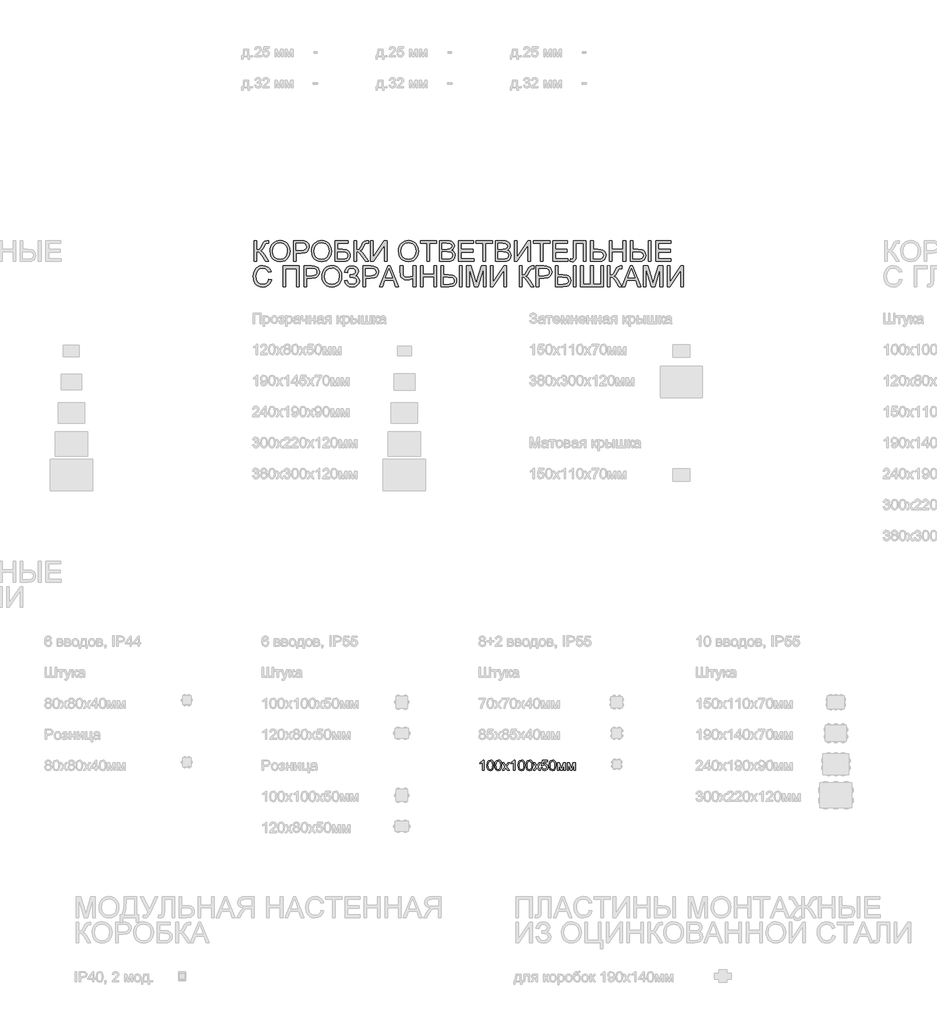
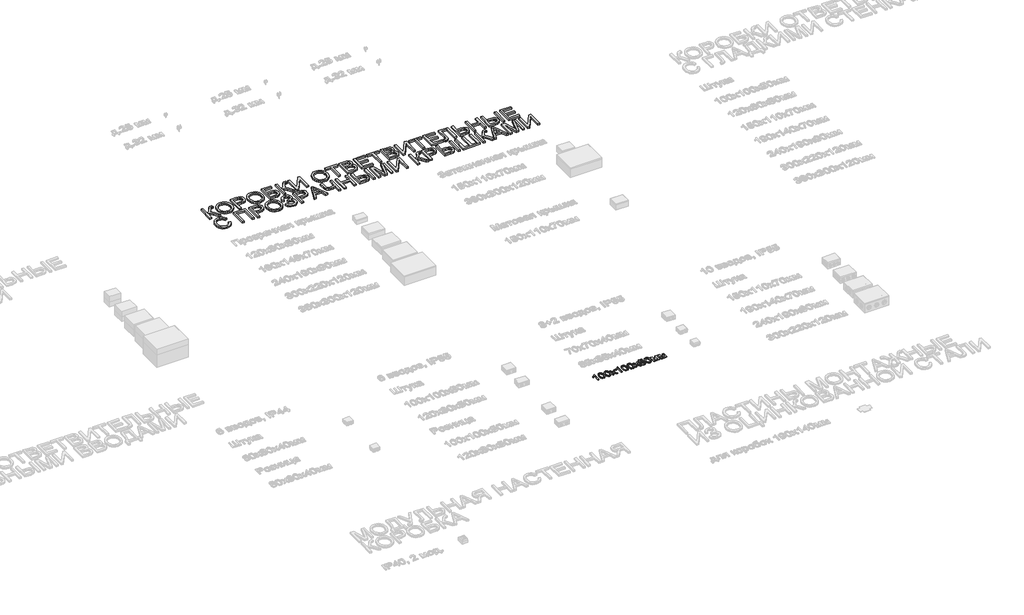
# One storey, part 23 of 98: 2 proxies.
"""IFC4 building model written with IfcOpenShell, lengths in millimetres."""

from ifc_helpers import new_model, si_unit, origin, origin_with_axes, place, context, project, spatial, polyline, outline, extrude, element, save

model = new_model("IFC4")

# Units and contexts
model_context = context("Model", 3, world=origin())
ifc_project = project(units=[si_unit("LENGTHUNIT", "METRE", prefix="MILLI")], contexts=[model_context])

# Site, building, storey
site = spatial("IfcSite", under=ifc_project)
building = spatial("IfcBuilding", under=site)
storey = spatial("IfcBuildingStorey", under=building, Name="Этаж 01", Elevation=0.0)

# Proxies
placement = place(None, origin())
element("IfcBuildingElementProxy", 1, Name="100", ObjectType="100", at=placement, inside=storey, context=model_context, shape_type="SweptSolid", body=[
    extrude(outline(polyline([(8097.5391141, -46359.5121665), (8084.9820753, -46359.5121665), (8084.9820753, -46281.2268779), (8073.0872241, -46289.7004265), (8059.8679978, -46296.0402596), (8059.8679978, -46284.1699338), (8078.2743603, -46272.4222355), (8089.4457102, -46259.0558563), (8097.5391141, -46259.0558563), (8097.5391141, -46359.5121665)])), origin_with_axes(), (0.0, 0.0, 1.0), 10.0),
    extrude(outline(polyline([(8127.3620812, -46310.0933518), (8131.0531639, -46281.1900897), (8142.0160473, -46264.5250353), (8160.3243079, -46259.0558563), (8174.9905368, -46262.2932179), (8185.1195544, -46271.6251578), (8191.0056663, -46286.4875904), (8193.2865347, -46310.0933518), (8189.6322402, -46338.8739865), (8178.706145, -46355.5758291), (8170.4747853, -46359.7053045), (8160.3243079, -46361.0817963), (8147.2767598, -46358.6905633), (8137.3684714, -46351.5168644), (8129.8636787, -46334.5268476), (8127.3620812, -46310.0933518)]), holes=[polyline([(8139.9191199, -46310.0688263), (8141.3906479, -46329.8210238), (8145.8052319, -46341.2529568), (8152.3780568, -46346.7068073), (8160.3243079, -46348.5247575), (8168.270559, -46346.700676), (8174.843384, -46341.2284313), (8179.257968, -46329.7903669), (8180.7294959, -46310.0688263), (8179.3070189, -46290.7611529), (8175.0395877, -46279.2403151), (8168.4790255, -46273.5197501), (8160.1771551, -46271.6128951), (8152.3167432, -46273.2928895), (8146.0014356, -46278.3328729), (8141.4396988, -46290.5710806), (8139.9191199, -46310.0688263)])]), origin_with_axes(), (0.0, 0.0, 1.0), 10.0),
    extrude(outline(polyline([(8204.2739436, -46310.0933518), (8207.9650263, -46281.1900897), (8218.9279098, -46264.5250353), (8237.2361704, -46259.0558563), (8251.9023993, -46262.2932179), (8262.0314169, -46271.6251578), (8267.9175288, -46286.4875904), (8270.1983972, -46310.0933518), (8266.5441027, -46338.8739865), (8255.6180074, -46355.5758291), (8247.3866478, -46359.7053045), (8237.2361704, -46361.0817963), (8224.1886223, -46358.6905633), (8214.2803339, -46351.5168644), (8206.7755412, -46334.5268476), (8204.2739436, -46310.0933518)]), holes=[polyline([(8216.8309824, -46310.0688263), (8218.3025104, -46329.8210238), (8222.7170943, -46341.2529568), (8229.2899193, -46346.7068073), (8237.2361704, -46348.5247575), (8245.1824215, -46346.700676), (8251.7552465, -46341.2284313), (8256.1698304, -46329.7903669), (8257.6413584, -46310.0688263), (8256.2188813, -46290.7611529), (8251.9514502, -46279.2403151), (8245.390888, -46273.5197501), (8237.0890176, -46271.6128951), (8229.2286056, -46273.2928895), (8222.913298, -46278.3328729), (8218.3515613, -46290.5710806), (8216.8309824, -46310.0688263)])]), origin_with_axes(), (0.0, 0.0, 1.0), 10.0),
    extrude(outline(polyline([(8276.4769165, -46359.5121665), (8303.3077767, -46322.4296613), (8278.0465464, -46285.7395637), (8293.1542337, -46285.7395637), (8305.3433904, -46303.3978995), (8311.0332986, -46311.736558), (8315.9629174, -46304.9184784), (8329.8443313, -46285.7395637), (8344.9520186, -46285.7395637), (8318.415464, -46322.4296613), (8343.9709999, -46359.5121665), (8328.8633127, -46359.5121665), (8313.4858453, -46337.2185176), (8310.6654166, -46333.1472901), (8291.5846038, -46359.5121665), (8276.4769165, -46359.5121665)])), origin_with_axes(), (0.0, 0.0, 1.0), 10.0),
    extrude(outline(polyline([(8398.9080445, -46359.5121665), (8386.3510058, -46359.5121665), (8386.3510058, -46281.2268779), (8374.4561546, -46289.7004265), (8361.2369282, -46296.0402596), (8361.2369282, -46284.1699338), (8379.6432907, -46272.4222355), (8390.8146406, -46259.0558563), (8398.9080445, -46259.0558563), (8398.9080445, -46359.5121665)])), origin_with_axes(), (0.0, 0.0, 1.0), 10.0),
    extrude(outline(polyline([(8428.7310116, -46310.0933518), (8432.4220943, -46281.1900897), (8443.3849778, -46264.5250353), (8461.6932384, -46259.0558563), (8476.3594673, -46262.2932179), (8486.4884849, -46271.6251578), (8492.3745968, -46286.4875904), (8494.6554652, -46310.0933518), (8491.0011707, -46338.8739865), (8480.0750754, -46355.5758291), (8471.8437158, -46359.7053045), (8461.6932384, -46361.0817963), (8448.6456903, -46358.6905633), (8438.7374019, -46351.5168644), (8431.2326092, -46334.5268476), (8428.7310116, -46310.0933518)]), holes=[polyline([(8441.2880504, -46310.0688263), (8442.7595784, -46329.8210238), (8447.1741623, -46341.2529568), (8453.7469873, -46346.7068073), (8461.6932384, -46348.5247575), (8469.6394895, -46346.700676), (8476.2123145, -46341.2284313), (8480.6268984, -46329.7903669), (8482.0984264, -46310.0688263), (8480.6759493, -46290.7611529), (8476.4085182, -46279.2403151), (8469.8479559, -46273.5197501), (8461.5460856, -46271.6128951), (8453.6856736, -46273.2928895), (8447.370366, -46278.3328729), (8442.8086293, -46290.5710806), (8441.2880504, -46310.0688263)])]), origin_with_axes(), (0.0, 0.0, 1.0), 10.0),
    extrude(outline(polyline([(8505.6428741, -46310.0933518), (8509.3339568, -46281.1900897), (8520.2968402, -46264.5250353), (8538.6051008, -46259.0558563), (8553.2713297, -46262.2932179), (8563.4003473, -46271.6251578), (8569.2864592, -46286.4875904), (8571.5673276, -46310.0933518), (8567.9130331, -46338.8739865), (8556.9869379, -46355.5758291), (8548.7555782, -46359.7053045), (8538.6051008, -46361.0817963), (8525.5575527, -46358.6905633), (8515.6492643, -46351.5168644), (8508.1444716, -46334.5268476), (8505.6428741, -46310.0933518)]), holes=[polyline([(8518.1999128, -46310.0688263), (8519.6714408, -46329.8210238), (8524.0860248, -46341.2529568), (8530.6588497, -46346.7068073), (8538.6051008, -46348.5247575), (8546.5513519, -46346.700676), (8553.1241769, -46341.2284313), (8557.5387609, -46329.7903669), (8559.0102888, -46310.0688263), (8557.5878118, -46290.7611529), (8553.3203806, -46279.2403151), (8546.7598184, -46273.5197501), (8538.457948, -46271.6128951), (8530.5975361, -46273.2928895), (8524.2822285, -46278.3328729), (8519.7204918, -46290.5710806), (8518.1999128, -46310.0688263)])]), origin_with_axes(), (0.0, 0.0, 1.0), 10.0),
    extrude(outline(polyline([(8577.845847, -46359.5121665), (8604.6767072, -46322.4296613), (8579.4154768, -46285.7395637), (8594.5231641, -46285.7395637), (8606.7123209, -46303.3978995), (8612.4022291, -46311.736558), (8617.3318478, -46304.9184784), (8631.2132618, -46285.7395637), (8646.320949, -46285.7395637), (8619.7843944, -46322.4296613), (8645.3399304, -46359.5121665), (8630.2322431, -46359.5121665), (8614.8547757, -46337.2185176), (8612.0343471, -46333.1472901), (8592.9535343, -46359.5121665), (8577.845847, -46359.5121665)])), origin_with_axes(), (0.0, 0.0, 1.0), 10.0),
    extrude(outline(polyline([(8653.1880796, -46332.8284591), (8665.7451184, -46331.2588292), (8672.0726887, -46344.1960127), (8685.1938132, -46348.5247575), (8694.1946593, -46347.019507), (8700.9391626, -46342.5037555), (8705.1514114, -46335.4986692), (8706.5554944, -46326.5254142), (8701.2947818, -46311.6139307), (8694.6882343, -46307.5120464), (8685.3900169, -46306.1447517), (8674.3658198, -46308.3275182), (8667.3147482, -46313.9929009), (8654.7577095, -46312.4232711), (8665.7451184, -46260.6254862), (8714.4036436, -46260.6254862), (8714.4036436, -46273.1825249), (8675.8986614, -46273.1825249), (8670.5275843, -46300.847251), (8679.4977736, -46295.4025974), (8688.8971586, -46293.5877129), (8700.6295286, -46295.8379245), (8710.3692044, -46302.5885591), (8716.926701, -46312.8769922), (8719.1125331, -46325.7405993), (8717.1443645, -46338.2976381), (8711.2398584, -46349.0397923), (8699.9336185, -46358.0712953), (8685.1447623, -46361.0817963), (8672.8115184, -46359.1473501), (8662.9860034, -46353.3440117), (8656.2506972, -46344.3462312), (8653.1880796, -46332.8284591)])), origin_with_axes(), (0.0, 0.0, 1.0), 10.0),
    extrude(outline(polyline([(8730.0999421, -46310.0933518), (8733.7910248, -46281.1900897), (8744.7539082, -46264.5250353), (8763.0621688, -46259.0558563), (8777.7283977, -46262.2932179), (8787.8574153, -46271.6251578), (8793.7435272, -46286.4875904), (8796.0243956, -46310.0933518), (8792.3701011, -46338.8739865), (8781.4440059, -46355.5758291), (8773.2126462, -46359.7053045), (8763.0621688, -46361.0817963), (8750.0146207, -46358.6905633), (8740.1063323, -46351.5168644), (8732.6015396, -46334.5268476), (8730.0999421, -46310.0933518)]), holes=[polyline([(8742.6569808, -46310.0688263), (8744.1285088, -46329.8210238), (8748.5430928, -46341.2529568), (8755.1159177, -46346.7068073), (8763.0621688, -46348.5247575), (8771.0084199, -46346.700676), (8777.5812449, -46341.2284313), (8781.9958289, -46329.7903669), (8783.4673568, -46310.0688263), (8782.0448798, -46290.7611529), (8777.7774486, -46279.2403151), (8771.2168864, -46273.5197501), (8762.915016, -46271.6128951), (8755.0546041, -46273.2928895), (8748.7392965, -46278.3328729), (8744.1775597, -46290.5710806), (8742.6569808, -46310.0688263)])]), origin_with_axes(), (0.0, 0.0, 1.0), 10.0),
    extrude(outline(polyline([(8810.1510642, -46285.7395637), (8831.7580001, -46285.7395637), (8848.4107917, -46344.7968867), (8866.3634331, -46285.7395637), (8887.0629267, -46285.7395637), (8887.0629267, -46359.5121665), (8874.5058879, -46359.5121665), (8874.5058879, -46300.111487), (8856.4551447, -46359.5121665), (8839.9740313, -46359.5121665), (8822.708103, -46297.2665329), (8822.708103, -46359.5121665), (8810.1510642, -46359.5121665), (8810.1510642, -46285.7395637)])), origin_with_axes(), (0.0, 0.0, 1.0), 10.0),
    extrude(outline(polyline([(8905.8984848, -46285.7395637), (8927.5054207, -46285.7395637), (8944.1582123, -46344.7968867), (8962.1108537, -46285.7395637), (8982.8103473, -46285.7395637), (8982.8103473, -46359.5121665), (8970.2533085, -46359.5121665), (8970.2533085, -46300.111487), (8952.2025653, -46359.5121665), (8935.7214519, -46359.5121665), (8918.4555236, -46297.2665329), (8918.4555236, -46359.5121665), (8905.8984848, -46359.5121665), (8905.8984848, -46285.7395637)])), origin_with_axes(), (0.0, 0.0, 1.0), 10.0),
])
element("IfcBuildingElementProxy", 2, Name="200", ObjectType="200", at=placement, inside=storey, context=model_context, shape_type="SweptSolid", body=[
    extrude(outline(polyline([(5876.3303217, -41236.6247283), (5901.4443992, -41236.6247283), (5901.4443992, -41324.5239997), (5918.4466788, -41322.8623994), (5929.5260582, -41317.8775983), (5938.4839848, -41306.148294), (5949.1219058, -41284.253184), (5962.9787943, -41256.171525), (5978.6750927, -41242.2655856), (6001.1158944, -41236.6247283), (6017.5970078, -41236.9190339), (6017.5970078, -41262.0331114), (6012.0542524, -41261.8859586), (6006.511497, -41261.7388059), (5995.0090533, -41263.247122), (5986.891124, -41267.7720706), (5971.9796404, -41293.6219121), (5954.1986773, -41325.1126109), (5936.8591726, -41335.5114086), (5956.2465538, -41346.8666995), (5975.3641548, -41370.5337746), (6017.5970078, -41437.5373486), (5988.4607538, -41437.5373486), (5952.7516748, -41380.9325723), (5927.6130718, -41351.3793853), (5916.0063949, -41345.3645147), (5901.4443992, -41343.3595578), (5901.4443992, -41437.5373486), (5876.3303217, -41437.5373486), (5876.3303217, -41236.6247283)])), origin_with_axes(), (0.0, 0.0, 1.0), 20.0),
    extrude(outline(polyline([(6030.1540466, -41339.7297888), (6031.8279097, -41316.1638814), (6036.8494989, -41295.3019065), (6045.2188143, -41277.1438644), (6056.9358558, -41261.6897549), (6071.2985821, -41249.3503797), (6087.6049515, -41240.5365402), (6105.8549641, -41235.2482365), (6126.04862, -41233.4854686), (6152.4012336, -41236.7964066), (6176.0315204, -41246.7292204), (6195.6518935, -41262.5849344), (6209.9747658, -41283.6645728), (6218.7303573, -41308.9503286), (6221.6488878, -41337.424395), (6218.5770732, -41366.2786061), (6209.3616292, -41391.9199812), (6194.5114593, -41413.0364077), (6174.535467, -41428.3157733), (6151.1075152, -41437.5863995), (6125.9014672, -41440.6766083), (6099.1441834, -41437.2614371), (6075.3790065, -41427.0159236), (6055.8076844, -41410.865904), (6041.6319648, -41389.7372147), (6033.0235262, -41365.4263462), (6030.1540466, -41339.7297888)]), holes=[polyline([(6055.2681241, -41339.9750435), (6060.2897134, -41371.4044286), (6075.3544811, -41395.3535465), (6097.9976179, -41410.5102847), (6125.7543144, -41415.5625308), (6153.9156811, -41410.4612338), (6176.5956061, -41395.1573428), (6185.3190079, -41383.8848253), (6191.5500092, -41370.4724609), (6196.5348103, -41337.2281913), (6194.4010947, -41314.995856), (6187.999948, -41295.7801531), (6177.496917, -41280.0654606), (6163.0575487, -41268.3361563), (6145.6383362, -41261.0336987), (6126.1957728, -41258.5995462), (6099.1809716, -41263.2900416), (6076.2128724, -41277.3615279), (6067.049545, -41288.3106158), (6060.5043112, -41302.3958977), (6055.2681241, -41339.9750435)])]), origin_with_axes(), (0.0, 0.0, 1.0), 20.0),
    extrude(outline(polyline([(6256.1807444, -41437.5373486), (6256.1807444, -41236.6247283), (6330.6400602, -41236.6247283), (6360.6592311, -41238.5377147), (6385.0620701, -41247.9309683), (6393.9341575, -41256.2573641), (6400.8809959, -41267.3551376), (6405.3691562, -41280.4456053), (6406.8652096, -41294.7500836), (6402.8246391, -41318.4294213), (6390.7029273, -41338.160159), (6380.9954412, -41345.9286004), (6368.0352651, -41351.4774872), (6332.3568429, -41355.9165966), (6281.294822, -41355.9165966), (6281.294822, -41437.5373486), (6256.1807444, -41437.5373486)]), holes=[polyline([(6281.294822, -41330.8025191), (6333.8283709, -41330.8025191), (6356.0974943, -41328.4971252), (6370.8127741, -41321.5809437), (6379.0165426, -41310.4831702), (6381.7511321, -41295.6330003), (6380.1385827, -41284.3512858), (6375.3009345, -41274.8354049), (6367.8390613, -41267.6739687), (6358.3538372, -41263.4555885), (6333.2397597, -41261.7388059), (6281.294822, -41261.7388059), (6281.294822, -41330.8025191)])]), origin_with_axes(), (0.0, 0.0, 1.0), 20.0),
    extrude(outline(polyline([(6431.9792872, -41339.7297888), (6433.6531503, -41316.1638814), (6438.6747395, -41295.3019065), (6447.0440549, -41277.1438644), (6458.7610964, -41261.6897549), (6473.1238227, -41249.3503797), (6489.4301921, -41240.5365402), (6507.6802047, -41235.2482365), (6527.8738606, -41233.4854686), (6554.2264742, -41236.7964066), (6577.856761, -41246.7292204), (6597.4771341, -41262.5849344), (6611.8000064, -41283.6645728), (6620.5555979, -41308.9503286), (6623.4741284, -41337.424395), (6620.4023137, -41366.2786061), (6611.1868698, -41391.9199812), (6596.3366999, -41413.0364077), (6576.3607076, -41428.3157733), (6552.9327558, -41437.5863995), (6527.7267078, -41440.6766083), (6500.969424, -41437.2614371), (6477.2042471, -41427.0159236), (6457.632925, -41410.865904), (6443.4572054, -41389.7372147), (6434.8487667, -41365.4263462), (6431.9792872, -41339.7297888)]), holes=[polyline([(6457.0933647, -41339.9750435), (6462.114954, -41371.4044286), (6477.1797217, -41395.3535465), (6499.8228585, -41410.5102847), (6527.579555, -41415.5625308), (6555.7409217, -41410.4612338), (6578.4208467, -41395.1573428), (6587.1442485, -41383.8848253), (6593.3752498, -41370.4724609), (6598.3600509, -41337.2281913), (6596.2263353, -41314.995856), (6589.8251886, -41295.7801531), (6579.3221576, -41280.0654606), (6564.8827893, -41268.3361563), (6547.4635768, -41261.0336987), (6528.0210134, -41258.5995462), (6501.0062122, -41263.2900416), (6478.038113, -41277.3615279), (6468.8747856, -41288.3106158), (6462.3295518, -41302.3958977), (6457.0933647, -41339.9750435)])]), origin_with_axes(), (0.0, 0.0, 1.0), 20.0),
    extrude(outline(polyline([(6658.005985, -41236.6247283), (6783.5763727, -41236.6247283), (6783.5763727, -41261.7388059), (6683.1200626, -41261.7388059), (6683.1200626, -41321.38474), (6730.159907, -41321.38474), (6753.5449392, -41322.6600643), (6771.6079451, -41326.486037), (6785.4770964, -41333.8559396), (6796.2805643, -41345.7630535), (6803.233534, -41361.09147), (6805.5511906, -41378.7252803), (6803.9018529, -41393.5325306), (6798.9538401, -41407.3464995), (6790.7316775, -41419.4436858), (6779.2598906, -41429.1005882), (6761.5647667, -41435.4281585), (6734.6725928, -41437.5373486), (6658.005985, -41437.5373486), (6658.005985, -41236.6247283)]), holes=[polyline([(6683.1200626, -41412.4232711), (6736.9289357, -41412.4232711), (6755.9484349, -41410.3508692), (6769.547806, -41404.1336635), (6777.7147863, -41393.7716539), (6780.437113, -41379.2648406), (6778.8797459, -41368.4613727), (6774.2076446, -41359.5954166), (6766.7580342, -41353.0225916), (6756.8681399, -41349.098517), (6719.0253453, -41346.4988175), (6683.1200626, -41346.4988175), (6683.1200626, -41412.4232711)])]), origin_with_axes(), (0.0, 0.0, 1.0), 20.0),
    extrude(outline(polyline([(6840.0830472, -41236.6247283), (6865.1971247, -41236.6247283), (6865.1971247, -41324.5239997), (6882.1994043, -41322.8623994), (6893.2787837, -41317.8775983), (6902.2367103, -41306.148294), (6912.8746313, -41284.253184), (6926.7315198, -41256.171525), (6942.4278182, -41242.2655856), (6964.8686199, -41236.6247283), (6981.3497333, -41236.9190339), (6981.3497333, -41262.0331114), (6975.8069779, -41261.8859586), (6970.2642225, -41261.7388059), (6958.7617788, -41263.247122), (6950.6438495, -41267.7720706), (6935.7323659, -41293.6219121), (6917.9514028, -41325.1126109), (6900.6118981, -41335.5114086), (6919.9992793, -41346.8666995), (6939.1168803, -41370.5337746), (6981.3497333, -41437.5373486), (6952.2134793, -41437.5373486), (6916.5044003, -41380.9325723), (6891.3657973, -41351.3793853), (6879.7591203, -41345.3645147), (6865.1971247, -41343.3595578), (6865.1971247, -41437.5373486), (6840.0830472, -41437.5373486), (6840.0830472, -41236.6247283)])), origin_with_axes(), (0.0, 0.0, 1.0), 20.0),
    extrude(outline(polyline([(7003.3245512, -41236.6247283), (7028.4386287, -41236.6247283), (7028.4386287, -41395.745954), (7133.6038284, -41236.6247283), (7160.2875358, -41236.6247283), (7160.2875358, -41437.5373486), (7135.1734582, -41437.5373486), (7135.1734582, -41278.8575814), (7030.2535132, -41437.5373486), (7003.3245512, -41437.5373486), (7003.3245512, -41236.6247283)])), origin_with_axes(), (0.0, 0.0, 1.0), 20.0),
    extrude(outline(polyline([(7273.3008847, -41339.7297888), (7274.9747478, -41316.1638814), (7279.996337, -41295.3019065), (7288.3656524, -41277.1438644), (7300.0826939, -41261.6897549), (7314.4454202, -41249.3503797), (7330.7517896, -41240.5365402), (7349.0018022, -41235.2482365), (7369.1954581, -41233.4854686), (7395.5480717, -41236.7964066), (7419.1783585, -41246.7292204), (7438.7987316, -41262.5849344), (7453.1216039, -41283.6645728), (7461.8771954, -41308.9503286), (7464.7957259, -41337.424395), (7461.7239113, -41366.2786061), (7452.5084673, -41391.9199812), (7437.6582974, -41413.0364077), (7417.6823051, -41428.3157733), (7394.2543533, -41437.5863995), (7369.0483053, -41440.6766083), (7342.2910215, -41437.2614371), (7318.5258446, -41427.0159236), (7298.9545225, -41410.865904), (7284.7788029, -41389.7372147), (7276.1703643, -41365.4263462), (7273.3008847, -41339.7297888)]), holes=[polyline([(7298.4149622, -41339.9750435), (7303.4365515, -41371.4044286), (7318.5013192, -41395.3535465), (7341.144456, -41410.5102847), (7368.9011525, -41415.5625308), (7397.0625192, -41410.4612338), (7419.7424442, -41395.1573428), (7428.465846, -41383.8848253), (7434.6968473, -41370.4724609), (7439.6816484, -41337.2281913), (7437.5479328, -41314.995856), (7431.1467861, -41295.7801531), (7420.6437551, -41280.0654606), (7406.2043868, -41268.3361563), (7388.7851743, -41261.0336987), (7369.3426109, -41258.5995462), (7342.3278097, -41263.2900416), (7319.3597105, -41277.3615279), (7310.1963831, -41288.3106158), (7303.6511493, -41302.3958977), (7298.4149622, -41339.9750435)])]), origin_with_axes(), (0.0, 0.0, 1.0), 20.0),
    extrude(outline(polyline([(7549.5557376, -41437.5373486), (7549.5557376, -41261.7388059), (7483.6312841, -41261.7388059), (7483.6312841, -41236.6247283), (7640.5942687, -41236.6247283), (7640.5942687, -41261.7388059), (7574.6698151, -41261.7388059), (7574.6698151, -41437.5373486), (7549.5557376, -41437.5373486)])), origin_with_axes(), (0.0, 0.0, 1.0), 20.0),
    extrude(outline(polyline([(7668.8476059, -41437.5373486), (7668.8476059, -41236.6247283), (7745.5142137, -41236.6247283), (7766.5999834, -41238.1023877), (7783.0627027, -41242.5353657), (7795.6810551, -41250.034027), (7805.2337242, -41260.7087363), (7811.2485949, -41273.265775), (7813.2535517, -41286.411425), (7811.5674259, -41298.5086113), (7806.5090485, -41309.8822963), (7798.0416312, -41319.8335043), (7786.128386, -41327.6632594), (7800.3592878, -41335.0944757), (7810.8745815, -41346.4007157), (7817.3676987, -41360.8339526), (7819.5320711, -41377.6461598), (7813.6214337, -41404.6486982), (7798.9797303, -41423.8766639), (7777.1275398, -41434.0792579), (7744.9256025, -41437.5373486), (7668.8476059, -41437.5373486)]), holes=[polyline([(7693.9616834, -41412.4232711), (7745.4651628, -41412.4232711), (7764.1045172, -41411.4422524), (7779.874392, -41405.9730734), (7790.3222407, -41394.8139862), (7794.4179936, -41377.8914145), (7789.6110022, -41358.3691433), (7783.3140887, -41351.3119403), (7774.0373311, -41346.7195467), (7743.0126161, -41343.3595578), (7693.9616834, -41343.3595578), (7693.9616834, -41412.4232711)]), polyline([(7693.9616834, -41318.2454803), (7739.8243055, -41318.2454803), (7766.6061148, -41316.0872393), (7782.7193461, -41306.7920875), (7788.1394742, -41290.4336015), (7783.0872281, -41274.05059), (7768.617203, -41264.3630308), (7736.3416893, -41261.7388059), (7693.9616834, -41261.7388059), (7693.9616834, -41318.2454803)])]), origin_with_axes(), (0.0, 0.0, 1.0), 20.0),
    extrude(outline(polyline([(7854.0639277, -41437.5373486), (7854.0639277, -41236.6247283), (7998.4698736, -41236.6247283), (7998.4698736, -41261.7388059), (7879.1780053, -41261.7388059), (7879.1780053, -41321.38474), (7992.1913542, -41321.38474), (7992.1913542, -41346.4988175), (7879.1780053, -41346.4988175), (7879.1780053, -41412.4232711), (8001.6091333, -41412.4232711), (8001.6091333, -41437.5373486), (7854.0639277, -41437.5373486)])), origin_with_axes(), (0.0, 0.0, 1.0), 20.0),
    extrude(outline(polyline([(8089.5084047, -41437.5373486), (8089.5084047, -41261.7388059), (8023.5839511, -41261.7388059), (8023.5839511, -41236.6247283), (8180.5469357, -41236.6247283), (8180.5469357, -41261.7388059), (8114.6224822, -41261.7388059), (8114.6224822, -41437.5373486), (8089.5084047, -41437.5373486)])), origin_with_axes(), (0.0, 0.0, 1.0), 20.0),
    extrude(outline(polyline([(8208.800273, -41437.5373486), (8208.800273, -41236.6247283), (8285.4668808, -41236.6247283), (8306.5526504, -41238.1023877), (8323.0153697, -41242.5353657), (8335.6337222, -41250.034027), (8345.1863913, -41260.7087363), (8351.2012619, -41273.265775), (8353.2062188, -41286.411425), (8351.520093, -41298.5086113), (8346.4617156, -41309.8822963), (8337.9942983, -41319.8335043), (8326.081053, -41327.6632594), (8340.3119549, -41335.0944757), (8350.8272486, -41346.4007157), (8357.3203658, -41360.8339526), (8359.4847382, -41377.6461598), (8353.5741008, -41404.6486982), (8338.9323974, -41423.8766639), (8317.0802069, -41434.0792579), (8284.8782696, -41437.5373486), (8208.800273, -41437.5373486)]), holes=[polyline([(8233.9143505, -41412.4232711), (8285.4178298, -41412.4232711), (8304.0571842, -41411.4422524), (8319.8270591, -41405.9730734), (8330.2749078, -41394.8139862), (8334.3706606, -41377.8914145), (8329.5636692, -41358.3691433), (8323.2667558, -41351.3119403), (8313.9899981, -41346.7195467), (8282.9652832, -41343.3595578), (8233.9143505, -41343.3595578), (8233.9143505, -41412.4232711)]), polyline([(8233.9143505, -41318.2454803), (8279.7769726, -41318.2454803), (8306.5587818, -41316.0872393), (8322.6720132, -41306.7920875), (8328.0921413, -41290.4336015), (8323.0398952, -41274.05059), (8308.56987, -41264.3630308), (8276.2943563, -41261.7388059), (8233.9143505, -41261.7388059), (8233.9143505, -41318.2454803)])]), origin_with_axes(), (0.0, 0.0, 1.0), 20.0),
    extrude(outline(polyline([(8394.0165948, -41236.6247283), (8419.1306723, -41236.6247283), (8419.1306723, -41395.745954), (8524.295872, -41236.6247283), (8550.9795794, -41236.6247283), (8550.9795794, -41437.5373486), (8525.8655019, -41437.5373486), (8525.8655019, -41278.8575814), (8420.9455568, -41437.5373486), (8394.0165948, -41437.5373486), (8394.0165948, -41236.6247283)])), origin_with_axes(), (0.0, 0.0, 1.0), 20.0),
    extrude(outline(polyline([(8645.1573702, -41437.5373486), (8645.1573702, -41261.7388059), (8579.2329166, -41261.7388059), (8579.2329166, -41236.6247283), (8736.1959012, -41236.6247283), (8736.1959012, -41261.7388059), (8670.2714477, -41261.7388059), (8670.2714477, -41437.5373486), (8645.1573702, -41437.5373486)])), origin_with_axes(), (0.0, 0.0, 1.0), 20.0),
    extrude(outline(polyline([(8764.4492385, -41437.5373486), (8764.4492385, -41236.6247283), (8908.8551843, -41236.6247283), (8908.8551843, -41261.7388059), (8789.563316, -41261.7388059), (8789.563316, -41321.38474), (8902.5766649, -41321.38474), (8902.5766649, -41346.4988175), (8789.563316, -41346.4988175), (8789.563316, -41412.4232711), (8911.994444, -41412.4232711), (8911.994444, -41437.5373486), (8764.4492385, -41437.5373486)])), origin_with_axes(), (0.0, 0.0, 1.0), 20.0),
    extrude(outline(polyline([(8965.3618588, -41236.6247283), (9087.7929868, -41236.6247283), (9087.7929868, -41437.5373486), (9062.6789092, -41437.5373486), (9062.6789092, -41261.7388059), (8990.4759363, -41261.7388059), (8990.4759363, -41364.2552552), (8987.5574058, -41409.9952499), (8983.0385886, -41422.9201707), (8975.3191981, -41432.6077299), (8964.7487221, -41438.6593887), (8951.6766486, -41440.6766083), (8930.8300022, -41437.5373486), (8933.9692619, -41412.4232711), (8945.9867404, -41415.5625308), (8954.4786831, -41413.876405), (8960.5303419, -41408.8180275), (8964.1539796, -41397.5056562), (8965.3618588, -41377.0575486), (8965.3618588, -41236.6247283)])), origin_with_axes(), (0.0, 0.0, 1.0), 20.0),
    extrude(outline(polyline([(9131.7426225, -41236.6247283), (9156.8567, -41236.6247283), (9156.8567, -41321.38474), (9203.8965444, -41321.38474), (9232.2786404, -41323.3529087), (9251.5985765, -41329.2574147), (9264.3027681, -41338.5525664), (9272.8376303, -41350.6926723), (9277.6752786, -41364.4575903), (9279.287828, -41378.6271785), (9275.4128043, -41400.6755727), (9263.7877333, -41419.8299619), (9254.3699542, -41427.5769436), (9241.6167117, -41433.1105019), (9206.1038364, -41437.5373486), (9131.7426225, -41437.5373486), (9131.7426225, -41236.6247283)]), holes=[polyline([(9156.8567, -41412.4232711), (9206.0547855, -41412.4232711), (9230.800981, -41409.9400676), (9245.0993279, -41402.4904572), (9251.9051448, -41391.5337051), (9254.1737505, -41378.5290766), (9252.5305442, -41367.9953888), (9247.6009255, -41359.1539582), (9239.9305859, -41352.5750018), (9230.065217, -41348.8287368), (9192.9091355, -41346.4988175), (9156.8567, -41346.4988175), (9156.8567, -41412.4232711)])]), origin_with_axes(), (0.0, 0.0, 1.0), 20.0),
    extrude(outline(polyline([(9313.8196846, -41437.5373486), (9313.8196846, -41236.6247283), (9338.9337621, -41236.6247283), (9338.9337621, -41318.2454803), (9445.6685917, -41318.2454803), (9445.6685917, -41236.6247283), (9470.7826692, -41236.6247283), (9470.7826692, -41437.5373486), (9445.6685917, -41437.5373486), (9445.6685917, -41343.3595578), (9338.9337621, -41343.3595578), (9338.9337621, -41437.5373486), (9313.8196846, -41437.5373486)])), origin_with_axes(), (0.0, 0.0, 1.0), 20.0),
    extrude(outline(polyline([(9690.5308477, -41236.6247283), (9715.6449252, -41236.6247283), (9715.6449252, -41437.5373486), (9690.5308477, -41437.5373486), (9690.5308477, -41236.6247283)])), origin_with_axes(), (0.0, 0.0, 1.0), 20.0),
    extrude(outline(polyline([(9514.7323049, -41236.6247283), (9539.8463824, -41236.6247283), (9539.8463824, -41321.38474), (9588.1125002, -41321.38474), (9627.3900346, -41325.7747985), (9640.9495518, -41331.2623716), (9650.4562357, -41338.9449739), (9661.6766365, -41357.6824302), (9665.4167701, -41378.7743313), (9661.4620387, -41400.8043314), (9649.5978443, -41419.9035383), (9639.9915257, -41427.6183303), (9626.9914957, -41433.128896), (9590.8103015, -41437.5373486), (9514.7323049, -41437.5373486), (9514.7323049, -41236.6247283)]), holes=[polyline([(9539.8463824, -41412.4232711), (9590.5650468, -41412.4232711), (9613.1223445, -41410.4305769), (9628.5059433, -41404.4524945), (9637.3535053, -41394.0843536), (9640.3026926, -41378.921484), (9638.5184649, -41367.9708633), (9633.1657819, -41358.9577544), (9624.9865389, -41352.3726667), (9614.7226312, -41348.7061095), (9576.9779385, -41346.4988175), (9539.8463824, -41346.4988175), (9539.8463824, -41412.4232711)])]), origin_with_axes(), (0.0, 0.0, 1.0), 20.0),
    extrude(outline(polyline([(9762.7338206, -41437.5373486), (9762.7338206, -41236.6247283), (9907.1397664, -41236.6247283), (9907.1397664, -41261.7388059), (9787.8478981, -41261.7388059), (9787.8478981, -41321.38474), (9900.861247, -41321.38474), (9900.861247, -41346.4988175), (9787.8478981, -41346.4988175), (9787.8478981, -41412.4232711), (9910.2790261, -41412.4232711), (9910.2790261, -41437.5373486), (9762.7338206, -41437.5373486)])), origin_with_axes(), (0.0, 0.0, 1.0), 20.0),
    extrude(outline(polyline([(6017.5970078, -41610.0688263), (6042.7110854, -41616.5435494), (6031.1228025, -41645.8085621), (6012.9371692, -41667.1886374), (5989.049365, -41680.2668424), (5960.3545694, -41684.626244), (5931.2244467, -41681.3275688), (5908.0908006, -41671.4315431), (5890.3588884, -41655.2815235), (5877.4339677, -41633.2208665), (5869.5428989, -41607.2851859), (5866.9125426, -41579.5100952), (5869.8862554, -41550.2144257), (5878.8073938, -41524.9164072), (5893.2099739, -41504.4192487), (5912.6280119, -41489.5261592), (5935.6574248, -41480.457868), (5960.8941296, -41477.4351043), (5988.430097, -41481.3469162), (6011.1958611, -41493.0823518), (6028.4801835, -41511.91791), (6039.5718257, -41537.1300894), (6014.4577481, -41543.1143032), (6005.7512076, -41524.7999112), (5993.8563564, -41512.2367411), (5978.6260418, -41504.9710717), (5959.913111, -41502.5491818), (5938.3429633, -41505.2347204), (5920.6233139, -41513.2913361), (5907.177227, -41525.8729003), (5898.4277668, -41542.1332845), (5893.6269068, -41560.5151216), (5892.0266201, -41579.4610443), (5893.9212124, -41602.6621355), (5899.6049892, -41622.7239669), (5909.2925484, -41638.8801179), (5923.1984879, -41650.3641675), (5939.8696736, -41657.2251667), (5957.8529718, -41659.5121665), (5978.8161142, -41656.3974322), (5996.2843776, -41647.0532296), (6009.4729471, -41631.5776603), (6017.5970078, -41610.0688263)])), origin_with_axes(), (0.0, 0.0, 1.0), 20.0),
    extrude(outline(polyline([(6155.7244343, -41480.574364), (6312.6874189, -41480.574364), (6312.6874189, -41681.4869843), (6287.5733413, -41681.4869843), (6287.5733413, -41505.6884415), (6180.8385118, -41505.6884415), (6180.8385118, -41681.4869843), (6155.7244343, -41681.4869843), (6155.7244343, -41480.574364)])), origin_with_axes(), (0.0, 0.0, 1.0), 20.0),
    extrude(outline(polyline([(6356.6370546, -41681.4869843), (6356.6370546, -41480.574364), (6431.0963704, -41480.574364), (6461.1155412, -41482.4873504), (6485.5183802, -41491.880604), (6494.3904677, -41500.2069998), (6501.337306, -41511.3047733), (6505.8254664, -41524.395241), (6507.3215198, -41538.6997192), (6503.2809492, -41562.379057), (6491.1592375, -41582.1097947), (6481.4517513, -41589.8782361), (6468.4915752, -41595.4271229), (6432.813153, -41599.8662323), (6381.7511321, -41599.8662323), (6381.7511321, -41681.4869843), (6356.6370546, -41681.4869843)]), holes=[polyline([(6381.7511321, -41574.7521548), (6434.284681, -41574.7521548), (6456.5538045, -41572.4467609), (6471.2690843, -41565.5305794), (6479.4728528, -41554.4328059), (6482.2074423, -41539.582636), (6480.5948928, -41528.3009215), (6475.7572446, -41518.7850406), (6468.2953715, -41511.6236044), (6458.8101474, -41507.4052242), (6433.6960698, -41505.6884415), (6381.7511321, -41505.6884415), (6381.7511321, -41574.7521548)])]), origin_with_axes(), (0.0, 0.0, 1.0), 20.0),
    extrude(outline(polyline([(6532.4355973, -41583.6794245), (6534.1094604, -41560.113517), (6539.1310496, -41539.2515422), (6547.500365, -41521.0935001), (6559.2174066, -41505.6393906), (6573.5801328, -41493.3000154), (6589.8865022, -41484.4861759), (6608.1365149, -41479.1978722), (6628.3301707, -41477.4351043), (6654.6827843, -41480.7460423), (6678.3130712, -41490.6788561), (6697.9334442, -41506.5345701), (6712.2563166, -41527.6142085), (6721.0119081, -41552.8999643), (6723.9304386, -41581.3740307), (6720.8586239, -41610.2282418), (6711.6431799, -41635.8696169), (6696.79301, -41656.9860434), (6676.8170177, -41672.265409), (6653.389066, -41681.5360352), (6628.1830179, -41684.626244), (6601.4257342, -41681.2110728), (6577.6605573, -41670.9655592), (6558.0892351, -41654.8155397), (6543.9135156, -41633.6868504), (6535.3050769, -41609.3759819), (6532.4355973, -41583.6794245)]), holes=[polyline([(6557.5496749, -41583.9246792), (6562.5712641, -41615.3540643), (6577.6360318, -41639.3031822), (6600.2791686, -41654.4599204), (6628.0358651, -41659.5121665), (6656.1972319, -41654.4108695), (6678.8771569, -41639.1069785), (6687.6005587, -41627.834461), (6693.83156, -41614.4220966), (6698.816361, -41581.177827), (6696.6826454, -41558.9454917), (6690.2814987, -41539.7297888), (6679.7784678, -41524.0150963), (6665.3390995, -41512.285792), (6647.919887, -41504.9833344), (6628.4773235, -41502.5491818), (6601.4625224, -41507.2396773), (6578.4944231, -41521.3111636), (6569.3310958, -41532.2602515), (6562.7858619, -41546.3455334), (6557.5496749, -41583.9246792)])]), origin_with_axes(), (0.0, 0.0, 1.0), 20.0),
    extrude(outline(polyline([(6749.0445161, -41624.9803098), (6774.1585936, -41618.7017905), (6779.4622257, -41632.2950302), (6789.585112, -41645.9005326), (6804.1593703, -41656.109258), (6822.8171189, -41659.5121665), (6841.720122, -41656.9553866), (6856.1472276, -41649.285047), (6865.2890952, -41637.9972011), (6868.3363844, -41624.5879024), (6865.0070523, -41610.5409415), (6855.0190562, -41599.694554), (6839.2921009, -41592.7599784), (6818.7458914, -41590.4484532), (6805.5511906, -41590.4484532), (6805.5511906, -41565.3343757), (6833.976206, -41563.298762), (6843.240701, -41559.6812557), (6851.3647617, -41552.8999643), (6857.0301444, -41543.9665631), (6858.9186053, -41533.8927278), (6856.404745, -41522.0653217), (6848.8631641, -41511.8933845), (6837.0296266, -41504.8852325), (6821.6398965, -41502.5491818), (6807.7278257, -41504.3456723), (6796.0107841, -41509.7351435), (6787.0344635, -41518.0921961), (6781.3445553, -41528.7914308), (6777.2978533, -41546.4988175), (6752.1837758, -41540.2202982), (6759.9859398, -41512.7517758), (6774.1218054, -41493.1314028), (6794.5913728, -41481.3591789), (6821.3946418, -41477.4351043), (6847.2506147, -41481.5124631), (6867.1346365, -41493.7445394), (6879.8081713, -41511.433532), (6884.0326829, -41531.8816396), (6882.3894766, -41545.0978003), (6877.4598579, -41556.7381997), (6869.2438267, -41566.802838), (6857.7413829, -41575.291715), (6871.708636, -41581.7235186), (6883.198817, -41592.5821688), (6890.8875507, -41606.935698), (6893.4504619, -41623.8521384), (6888.5331059, -41647.6357094), (6873.7810379, -41667.1886374), (6850.9110406, -41680.2668424), (6821.6398965, -41684.626244), (6796.1701997, -41680.8983731), (6775.5810707, -41669.7147605), (6759.8725095, -41651.075406), (6749.0445161, -41624.9803098)])), origin_with_axes(), (0.0, 0.0, 1.0), 20.0),
    extrude(outline(polyline([(6927.9823186, -41681.4869843), (6927.9823186, -41480.574364), (7002.4416344, -41480.574364), (7032.4608052, -41482.4873504), (7056.8636442, -41491.880604), (7065.7357316, -41500.2069998), (7072.68257, -41511.3047733), (7077.1707303, -41524.395241), (7078.6667838, -41538.6997192), (7074.6262132, -41562.379057), (7062.5045015, -41582.1097947), (7052.7970153, -41589.8782361), (7039.8368392, -41595.4271229), (7004.158417, -41599.8662323), (6953.0963961, -41599.8662323), (6953.0963961, -41681.4869843), (6927.9823186, -41681.4869843)]), holes=[polyline([(6953.0963961, -41574.7521548), (7005.629945, -41574.7521548), (7027.8990684, -41572.4467609), (7042.6143482, -41565.5305794), (7050.8181167, -41554.4328059), (7053.5527062, -41539.582636), (7051.9401568, -41528.3009215), (7047.1025086, -41518.7850406), (7039.6406355, -41511.6236044), (7030.1554113, -41507.4052242), (7005.0413338, -41505.6884415), (6953.0963961, -41505.6884415), (6953.0963961, -41574.7521548)])]), origin_with_axes(), (0.0, 0.0, 1.0), 20.0),
    extrude(outline(polyline([(7089.8013455, -41681.4869843), (7169.9996204, -41480.574364), (7191.3858271, -41480.574364), (7271.584102, -41681.4869843), (7245.0475475, -41681.4869843), (7222.04266, -41618.7017905), (7139.2937366, -41618.7017905), (7116.3379001, -41681.4869843), (7089.8013455, -41681.4869843)]), holes=[polyline([(7148.5153119, -41593.5877129), (7212.8701356, -41593.5877129), (7194.7703415, -41544.1934237), (7180.6927238, -41505.6884415), (7168.1847359, -41539.8769416), (7148.5153119, -41593.5877129)])]), origin_with_axes(), (0.0, 0.0, 1.0), 20.0),
    extrude(outline(polyline([(7439.6816484, -41681.4869843), (7414.5675708, -41681.4869843), (7414.5675708, -41601.0434547), (7381.2619875, -41611.9327617), (7352.3709882, -41615.5625308), (7332.7935347, -41613.0793273), (7315.6563651, -41605.6297169), (7302.375825, -41594.3602651), (7294.3682603, -41580.4175375), (7290.3399524, -41562.7775958), (7288.9971832, -41540.4165019), (7288.9971832, -41480.574364), (7314.1112607, -41480.574364), (7314.1112607, -41537.0319875), (7317.127893, -41564.1878101), (7326.1777901, -41580.1232319), (7339.4583302, -41587.8671479), (7355.1668913, -41590.4484532), (7384.1437298, -41587.333719), (7414.5675708, -41577.9895163), (7414.5675708, -41480.574364), (7439.6816484, -41480.574364), (7439.6816484, -41681.4869843)])), origin_with_axes(), (0.0, 0.0, 1.0), 20.0),
    extrude(outline(polyline([(7483.6312841, -41681.4869843), (7483.6312841, -41480.574364), (7508.7453616, -41480.574364), (7508.7453616, -41562.195116), (7615.4801911, -41562.195116), (7615.4801911, -41480.574364), (7640.5942687, -41480.574364), (7640.5942687, -41681.4869843), (7615.4801911, -41681.4869843), (7615.4801911, -41587.3091935), (7508.7453616, -41587.3091935), (7508.7453616, -41681.4869843), (7483.6312841, -41681.4869843)])), origin_with_axes(), (0.0, 0.0, 1.0), 20.0),
    extrude(outline(polyline([(7860.3424471, -41480.574364), (7885.4565247, -41480.574364), (7885.4565247, -41681.4869843), (7860.3424471, -41681.4869843), (7860.3424471, -41480.574364)])), origin_with_axes(), (0.0, 0.0, 1.0), 20.0),
    extrude(outline(polyline([(7684.5439044, -41480.574364), (7709.6579819, -41480.574364), (7709.6579819, -41565.3343757), (7757.9240997, -41565.3343757), (7797.201634, -41569.7244342), (7810.7611512, -41575.2120073), (7820.2678351, -41582.8946096), (7831.488236, -41601.6320659), (7835.2283696, -41622.7239669), (7831.2736381, -41644.7539671), (7819.4094438, -41663.853174), (7809.8031252, -41671.567966), (7796.8030952, -41677.0785317), (7760.621901, -41681.4869843), (7684.5439044, -41681.4869843), (7684.5439044, -41480.574364)]), holes=[polyline([(7709.6579819, -41656.3729068), (7760.3766463, -41656.3729068), (7782.933944, -41654.3802126), (7798.3175427, -41648.4021302), (7807.1651047, -41638.0339893), (7810.1142921, -41622.8711197), (7808.3300644, -41611.920499), (7802.9773813, -41602.9073901), (7794.7981383, -41596.3223024), (7784.5342307, -41592.6557452), (7746.7895379, -41590.4484532), (7709.6579819, -41590.4484532), (7709.6579819, -41656.3729068)])]), origin_with_axes(), (0.0, 0.0, 1.0), 20.0),
    extrude(outline(polyline([(7932.54542, -41681.4869843), (7932.54542, -41480.574364), (7975.7592917, -41480.574364), (8016.8639733, -41622.1844067), (8025.153581, -41651.7621191), (8034.1299016, -41619.73186), (8074.5478702, -41480.574364), (8117.7617419, -41480.574364), (8117.7617419, -41681.4869843), (8092.6476643, -41681.4869843), (8092.6476643, -41505.6884415), (8042.1742546, -41681.4869843), (8008.1329073, -41681.4869843), (7957.6594976, -41505.6884415), (7957.6594976, -41681.4869843), (7932.54542, -41681.4869843)])), origin_with_axes(), (0.0, 0.0, 1.0), 20.0),
    extrude(outline(polyline([(8161.7113776, -41480.574364), (8186.8254551, -41480.574364), (8186.8254551, -41639.6955897), (8291.9906548, -41480.574364), (8318.6743622, -41480.574364), (8318.6743622, -41681.4869843), (8293.5602846, -41681.4869843), (8293.5602846, -41522.8072171), (8188.6403396, -41681.4869843), (8161.7113776, -41681.4869843), (8161.7113776, -41480.574364)])), origin_with_axes(), (0.0, 0.0, 1.0), 20.0),
    extrude(outline(polyline([(8441.1054902, -41480.574364), (8466.2195677, -41480.574364), (8466.2195677, -41568.4736354), (8483.2218473, -41566.812035), (8494.3012267, -41561.827234), (8503.2591533, -41550.0979297), (8513.8970743, -41528.2028196), (8527.7539628, -41500.1211607), (8543.4502612, -41486.2152213), (8565.8910629, -41480.574364), (8582.3721763, -41480.8686696), (8582.3721763, -41505.9827471), (8576.8294209, -41505.8355943), (8571.2866655, -41505.6884415), (8559.7842218, -41507.1967577), (8551.6662925, -41511.7217063), (8536.7548089, -41537.5715478), (8518.9738458, -41569.0622466), (8501.6343411, -41579.4610443), (8521.0217223, -41590.8163352), (8540.1393233, -41614.4834102), (8582.3721763, -41681.4869843), (8553.2359223, -41681.4869843), (8517.5268433, -41624.882208), (8492.3882403, -41595.329021), (8480.7815634, -41589.3141504), (8466.2195677, -41587.3091935), (8466.2195677, -41681.4869843), (8441.1054902, -41681.4869843), (8441.1054902, -41480.574364)])), origin_with_axes(), (0.0, 0.0, 1.0), 20.0),
    extrude(outline(polyline([(8604.3469942, -41681.4869843), (8604.3469942, -41480.574364), (8678.80631, -41480.574364), (8708.8254808, -41482.4873504), (8733.2283198, -41491.880604), (8742.1004073, -41500.2069998), (8749.0472456, -41511.3047733), (8753.5354059, -41524.395241), (8755.0314594, -41538.6997192), (8750.9908888, -41562.379057), (8738.8691771, -41582.1097947), (8729.1616909, -41589.8782361), (8716.2015148, -41595.4271229), (8680.5230926, -41599.8662323), (8629.4610717, -41599.8662323), (8629.4610717, -41681.4869843), (8604.3469942, -41681.4869843)]), holes=[polyline([(8629.4610717, -41574.7521548), (8681.9946206, -41574.7521548), (8704.2637441, -41572.4467609), (8718.9790239, -41565.5305794), (8727.1827924, -41554.4328059), (8729.9173819, -41539.582636), (8728.3048324, -41528.3009215), (8723.4671842, -41518.7850406), (8716.0053111, -41511.6236044), (8706.520087, -41507.4052242), (8681.4060094, -41505.6884415), (8629.4610717, -41505.6884415), (8629.4610717, -41574.7521548)])]), origin_with_axes(), (0.0, 0.0, 1.0), 20.0),
    extrude(outline(polyline([(8965.3618588, -41480.574364), (8990.4759363, -41480.574364), (8990.4759363, -41681.4869843), (8965.3618588, -41681.4869843), (8965.3618588, -41480.574364)])), origin_with_axes(), (0.0, 0.0, 1.0), 20.0),
    extrude(outline(polyline([(8789.563316, -41480.574364), (8814.6773935, -41480.574364), (8814.6773935, -41565.3343757), (8862.9435113, -41565.3343757), (8902.2210457, -41569.7244342), (8915.7805629, -41575.2120073), (8925.2872468, -41582.8946096), (8936.5076476, -41601.6320659), (8940.2477812, -41622.7239669), (8936.2930498, -41644.7539671), (8924.4288554, -41663.853174), (8914.8225368, -41671.567966), (8901.8225068, -41677.0785317), (8865.6413126, -41681.4869843), (8789.563316, -41681.4869843), (8789.563316, -41480.574364)]), holes=[polyline([(8814.6773935, -41656.3729068), (8865.3960579, -41656.3729068), (8887.9533556, -41654.3802126), (8903.3369544, -41648.4021302), (8912.1845164, -41638.0339893), (8915.1337037, -41622.8711197), (8913.349476, -41611.920499), (8907.996793, -41602.9073901), (8899.81755, -41596.3223024), (8889.5536423, -41592.6557452), (8851.8089496, -41590.4484532), (8814.6773935, -41590.4484532), (8814.6773935, -41656.3729068)])]), origin_with_axes(), (0.0, 0.0, 1.0), 20.0),
    extrude(outline(polyline([(9034.425572, -41480.574364), (9059.5396495, -41480.574364), (9059.5396495, -41656.3729068), (9131.7426225, -41656.3729068), (9131.7426225, -41480.574364), (9156.8567, -41480.574364), (9156.8567, -41656.3729068), (9229.0596729, -41656.3729068), (9229.0596729, -41480.574364), (9254.1737505, -41480.574364), (9254.1737505, -41681.4869843), (9034.425572, -41681.4869843), (9034.425572, -41480.574364)])), origin_with_axes(), (0.0, 0.0, 1.0), 20.0),
    extrude(outline(polyline([(9294.9841265, -41480.574364), (9320.098204, -41480.574364), (9320.098204, -41568.4736354), (9337.1004835, -41566.812035), (9348.179863, -41561.827234), (9357.1377895, -41550.0979297), (9367.7757106, -41528.2028196), (9381.632599, -41500.1211607), (9397.3288975, -41486.2152213), (9419.7696992, -41480.574364), (9436.2508126, -41480.8686696), (9436.2508126, -41505.9827471), (9430.7080572, -41505.8355943), (9425.1653018, -41505.6884415), (9413.6628581, -41507.1967577), (9405.5449287, -41511.7217063), (9390.6334452, -41537.5715478), (9372.8524821, -41569.0622466), (9355.5129774, -41579.4610443), (9374.9003585, -41590.8163352), (9394.0179596, -41614.4834102), (9436.2508126, -41681.4869843), (9407.1145586, -41681.4869843), (9371.4054796, -41624.882208), (9346.2668766, -41595.329021), (9334.6601996, -41589.3141504), (9320.098204, -41587.3091935), (9320.098204, -41681.4869843), (9294.9841265, -41681.4869843), (9294.9841265, -41480.574364)])), origin_with_axes(), (0.0, 0.0, 1.0), 20.0),
    extrude(outline(polyline([(9434.8283356, -41681.4869843), (9515.0266105, -41480.574364), (9536.4128172, -41480.574364), (9616.6110921, -41681.4869843), (9590.0745375, -41681.4869843), (9567.0696501, -41618.7017905), (9484.3207266, -41618.7017905), (9461.3648901, -41681.4869843), (9434.8283356, -41681.4869843)]), holes=[polyline([(9493.542302, -41593.5877129), (9557.8971257, -41593.5877129), (9539.7973315, -41544.1934237), (9525.7197138, -41505.6884415), (9513.211726, -41539.8769416), (9493.542302, -41593.5877129)])]), origin_with_axes(), (0.0, 0.0, 1.0), 20.0),
    extrude(outline(polyline([(9643.4419523, -41681.4869843), (9643.4419523, -41480.574364), (9686.655824, -41480.574364), (9727.7605056, -41622.1844067), (9736.0501132, -41651.7621191), (9745.0264339, -41619.73186), (9785.4444024, -41480.574364), (9828.6582741, -41480.574364), (9828.6582741, -41681.4869843), (9803.5441966, -41681.4869843), (9803.5441966, -41505.6884415), (9753.0707868, -41681.4869843), (9719.0294396, -41681.4869843), (9668.5560298, -41505.6884415), (9668.5560298, -41681.4869843), (9643.4419523, -41681.4869843)])), origin_with_axes(), (0.0, 0.0, 1.0), 20.0),
    extrude(outline(polyline([(9872.6079098, -41480.574364), (9897.7219873, -41480.574364), (9897.7219873, -41639.6955897), (10002.887187, -41480.574364), (10029.5708944, -41480.574364), (10029.5708944, -41681.4869843), (10004.4568169, -41681.4869843), (10004.4568169, -41522.8072171), (9899.5368719, -41681.4869843), (9872.6079098, -41681.4869843), (9872.6079098, -41480.574364)])), origin_with_axes(), (0.0, 0.0, 1.0), 20.0),
])

save(model, "model.ifc")
